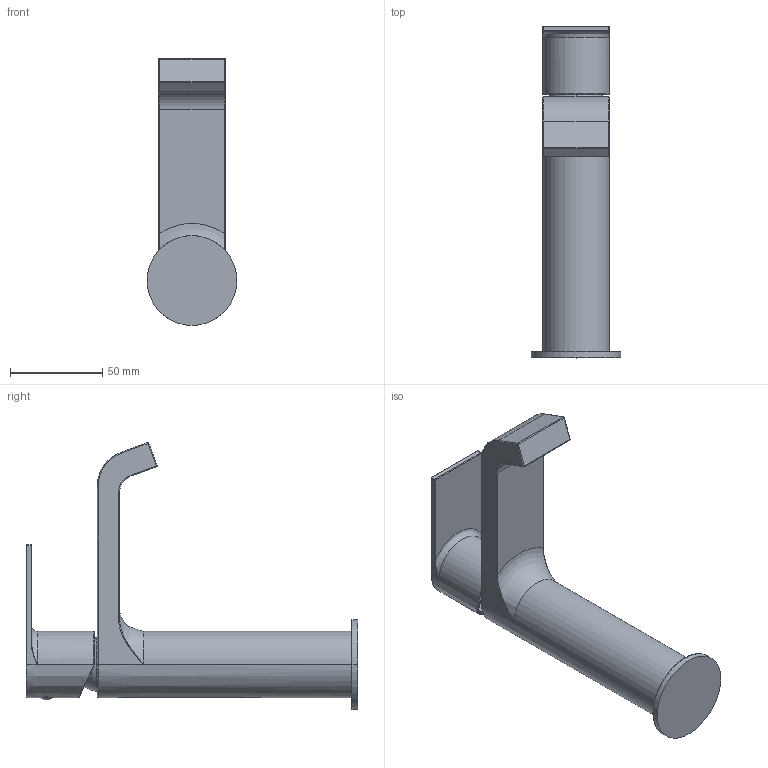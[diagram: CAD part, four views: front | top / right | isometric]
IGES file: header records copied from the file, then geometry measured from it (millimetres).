
Start section:  PTC IGES file: 83050.igs
Global section: file name: 83050.igs; native system: Pro/ENGINEER by Parametric Technology Corporation; preprocessor: 2009360; author: carloff; organization: Unknown; date: 20130919.161819; units: millimetre
Bounding box: 48.8 x 180 x 144.9 mm (x, y, z)
Surface area: 47884.4 mm2 (no closed solid volume)
Topology: 0 solids, 0 shells, 192 faces, 826 edges, 824 vertices
Faces by surface type: revolution 133, bspline 59
